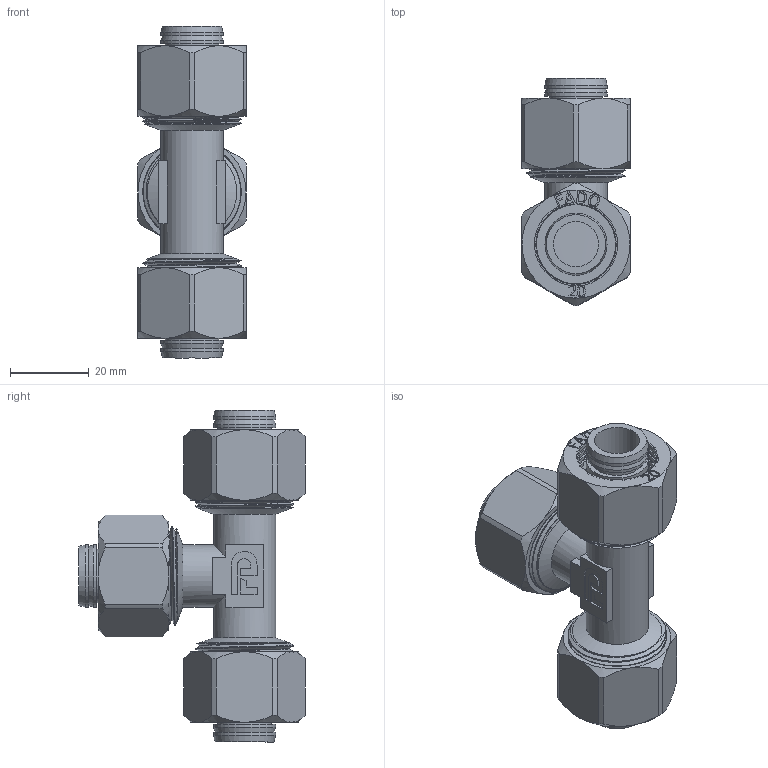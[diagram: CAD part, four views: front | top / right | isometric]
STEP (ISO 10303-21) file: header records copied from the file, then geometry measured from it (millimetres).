
FILE_DESCRIPTION(/* description */ (''),/* implementation_level */ '2;1');
FILE_NAME(/* name */ 'C:\Users\Doom\Desktop\Фадотех\Обжим\RFT05 20 30.03.2020\RFT05 20 30.03.2020.stp',/* time_stamp */ '2022-06-01T11:16:33+03:00',/* author */ ('Doom'),/* organization */ (''),/* preprocessor_version */ 'ST-DEVELOPER v18',/* originating_system */ 'Autodesk Inventor 2020',/* authorisation */ '');
FILE_SCHEMA (('AUTOMOTIVE_DESIGN { 1 0 10303 214 3 1 1 }'));
Length unit declared in the file: millimetre
Products named in the file (5): RFT05 20 30.03.2020; RFT05 20 30.03.2020_1; FADO MC Nut-20 15.02.2020; FADO MC Socket-20 15.02.2020; Olive 20 15.02.2020
Assembly tree (10 placements, depth 2):
  RFT05 20 30.03.2020
    RFT05 20 30.03.2020_1
    FADO MC Nut-20 15.02.2020  x3
    FADO MC Socket-20 15.02.2020  x3
    Olive 20 15.02.2020  x3
Bounding box: 27.5 x 57.75 x 84.5 mm (x, y, z)
Volume: 35185.6 mm3; surface area: 49282.5 mm2
Topology: 16 solids, 16 shells, 1510 faces, 4130 edges, 2770 vertices
Faces by surface type: bspline 764, plane 434, cylinder 228, cone 78, torus 6
Full cylindrical faces by diameter (mm): 11.5 x3, 12 x2, 13.531 x6, 14.5 x3, 15.8 x2, 15.802 x15, 17.391 x3, 17.5 x3, 18 x3, 20.5 x3, 22.776 x28, 23 x3, 23.517 x2, 24.1 x3, 25 x31
Entity records: 41258 total; most frequent: CARTESIAN_POINT 27574, ORIENTED_EDGE 3292, DIRECTION 1966, EDGE_CURVE 1646, VERTEX_POINT 1104, EDGE_LOOP 662, LINE 662, VECTOR 662
